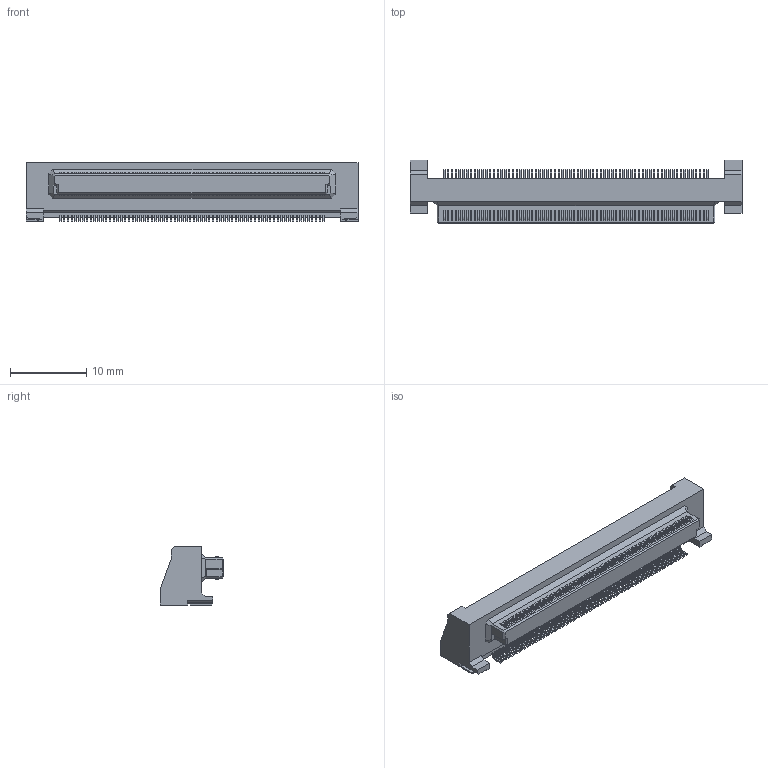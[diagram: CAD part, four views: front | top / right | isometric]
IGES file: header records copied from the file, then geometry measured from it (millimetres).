
Start section: Elysium IGES Interface
Global section: file name: C:\Users\1354\Desktop\DY10-140L.igs; native system: Creo Elements/Direct Modeling 19.0F  14-Feb-2017; preprocessor: Creo Element/Direct IGES_3D V2.2; author: Unknown; organization: Unknown; date: 20171130.161630; units: millimetre
Bounding box: 43.5 x 8.3 x 7.7 mm (x, y, z)
Volume: 1267.9 mm3; surface area: 1502.2 mm2
Topology: 1 solids, 1 shells, 2267 faces, 6198 edges, 4076 vertices
Faces by surface type: bspline 2267
